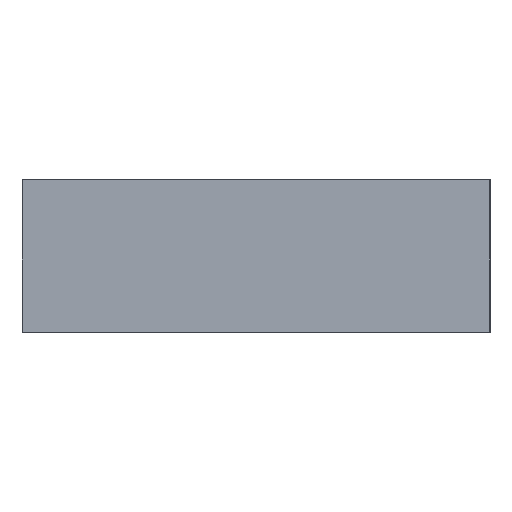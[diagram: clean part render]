
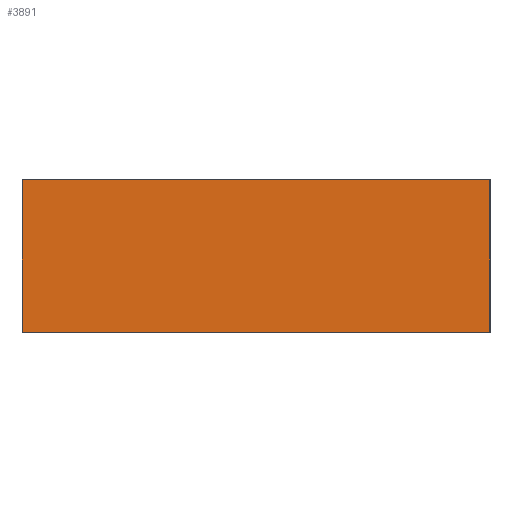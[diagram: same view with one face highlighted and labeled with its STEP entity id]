
A CAD part, top view. The second image highlights one B-rep face of the part: STEP entity #3891.
In plain terms, the highlighted planar face has unit normal (0, 0, 1).
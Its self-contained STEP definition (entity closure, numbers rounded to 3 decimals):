
#3891=ADVANCED_FACE('',(#4245),#11290,.T.);
#4245=FACE_OUTER_BOUND('',#4603,.T.);
#4603=EDGE_LOOP('',(#5992,#5993,#5994,#5995));
#5992=ORIENTED_EDGE('',*,*,#6772,.T.);
#5993=ORIENTED_EDGE('',*,*,#6775,.T.);
#5994=ORIENTED_EDGE('',*,*,#6773,.T.);
#5995=ORIENTED_EDGE('',*,*,#6774,.T.);
#6772=EDGE_CURVE('',#11241,#11242,#8191,.T.);
#6773=EDGE_CURVE('',#11243,#11244,#8192,.T.);
#6774=EDGE_CURVE('',#11244,#11241,#8193,.T.);
#6775=EDGE_CURVE('',#11242,#11243,#8194,.T.);
#8191=B_SPLINE_CURVE_WITH_KNOTS('',1,(#38952,#38953),.UNSPECIFIED.,.F.,
 .F.,(2,2),(1.,479.),.UNSPECIFIED.);
#8192=B_SPLINE_CURVE_WITH_KNOTS('',1,(#38954,#38955),.UNSPECIFIED.,.F.,
 .F.,(2,2),(1.,479.),.UNSPECIFIED.);
#8193=B_SPLINE_CURVE_WITH_KNOTS('',1,(#38956,#38957),.UNSPECIFIED.,.F.,
 .F.,(2,2),(1.,1469.),.UNSPECIFIED.);
#8194=B_SPLINE_CURVE_WITH_KNOTS('',1,(#38958,#38959),.UNSPECIFIED.,.F.,
 .F.,(2,2),(1.,1469.),.UNSPECIFIED.);
#11241=VERTEX_POINT('',#38908);
#11242=VERTEX_POINT('',#38909);
#11243=VERTEX_POINT('',#38910);
#11244=VERTEX_POINT('',#38911);
#11290=PLANE('',#11656);
#11656=AXIS2_PLACEMENT_3D('',#38843,#11719,$);
#11719=DIRECTION('',(0.,0.,1.));
#38843=CARTESIAN_POINT('',(-576.489,-1168.587,15.));
#38908=CARTESIAN_POINT('',(892.511,-1167.587,15.));
#38909=CARTESIAN_POINT('',(892.511,-689.587,15.));
#38910=CARTESIAN_POINT('',(-575.489,-689.587,15.));
#38911=CARTESIAN_POINT('',(-575.489,-1167.587,15.));
#38952=CARTESIAN_POINT('',(892.511,-1167.587,15.));
#38953=CARTESIAN_POINT('',(892.511,-689.587,15.));
#38954=CARTESIAN_POINT('',(-575.489,-689.587,15.));
#38955=CARTESIAN_POINT('',(-575.489,-1167.587,15.));
#38956=CARTESIAN_POINT('',(-575.489,-1167.587,15.));
#38957=CARTESIAN_POINT('',(892.511,-1167.587,15.));
#38958=CARTESIAN_POINT('',(892.511,-689.587,15.));
#38959=CARTESIAN_POINT('',(-575.489,-689.587,15.));
